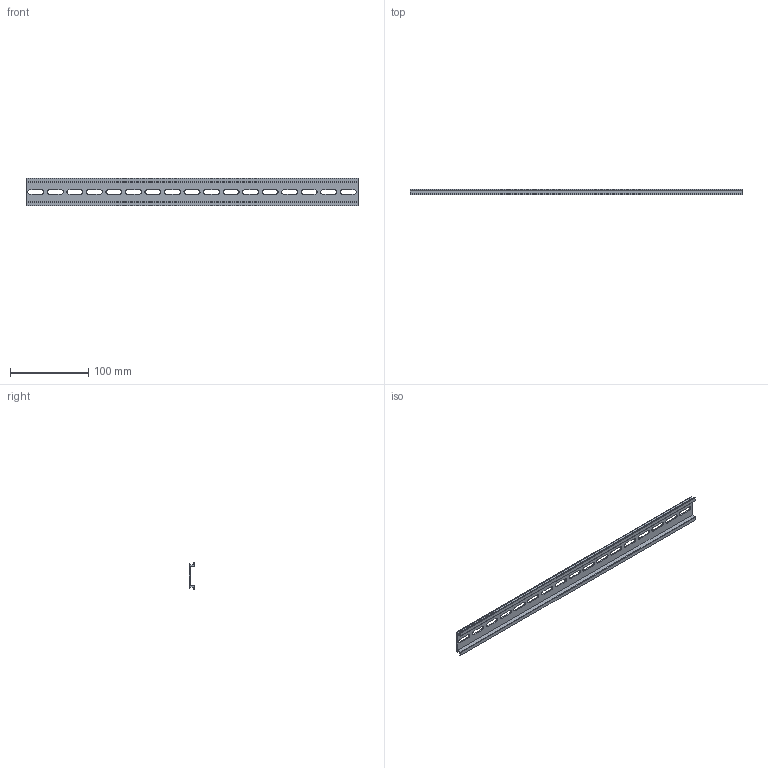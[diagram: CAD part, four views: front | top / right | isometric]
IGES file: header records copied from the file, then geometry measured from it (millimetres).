
Start section: ------------------------------------------------------------------------
Global section: file name: D:\ICADMX\tmp\trans3d_spg\CVICAD02.21224.DIN-RAIL425_7870.igs; native system: spGate; preprocessor: ver12.6.6; author: Unknown; organization: Unknown; date: 200901.142050; units: millimetre
Bounding box: 425 x 7.5 x 35 mm (x, y, z)
Volume: 30004.3 mm3; surface area: 40117.8 mm2
Topology: 1 solids, 1 shells, 88 faces, 258 edges, 172 vertices
Faces by surface type: bspline 88
